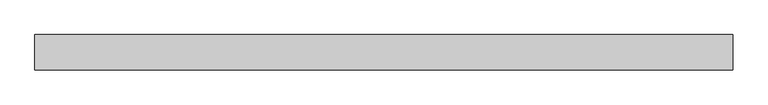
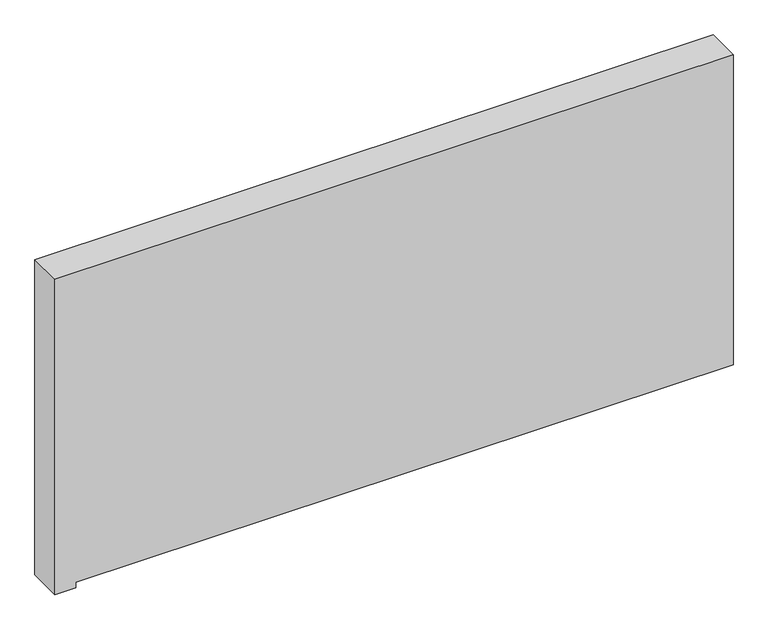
"""IFC4 building model written with IfcOpenShell, lengths in millimetres: plate geometry, Системная панель : Алюкобонд серый."""

from ifc_helpers import new_model, si_unit, frame, origin, place, context, project, spatial, polyline, outline, extrude, source, transform, mapped, element, save


def plate_4dec3ad9(model_context):
    return source(origin(), model_context, "Body", "SweptSolid", [
        extrude(outline(polyline([(0.0, -590.0), (0.0, -553.2685202), (10.0, -553.2685202), (10.0, 590.0), (580.0, 590.0), (580.0, -590.0), (0.0, -590.0)])), frame((0.0, -49.5, 0.0), z_axis=(0.0, 1.0, 0.0), x_axis=(0.0, 0.0, 1.0)), (0.0, 0.0, 1.0), 60.0),
    ])


if __name__ == "__main__":
    model = new_model("IFC4")
    model_context = context("Model", 3, world=origin())
    ifc_project = project(units=[si_unit("LENGTHUNIT", "METRE", prefix="MILLI")], contexts=[model_context])
    site = spatial("IfcSite", under=ifc_project)
    building = spatial("IfcBuilding", under=site)
    placement = place(None, origin())
    plate_shape = plate_4dec3ad9(model_context)
    element("IfcPlate", 1, ObjectType="Системная панель : Алюкобонд серый", at=placement, inside=building, context=model_context, shape_type="MappedRepresentation", body=[
        mapped(plate_shape, transform((0.0, 0.0, 0.0), x_axis=(1.0, 0.0, 0.0), y_axis=(0.0, 1.0, 0.0), z_axis=(0.0, 0.0, 1.0))),
    ])
    save(model, "model.ifc")
